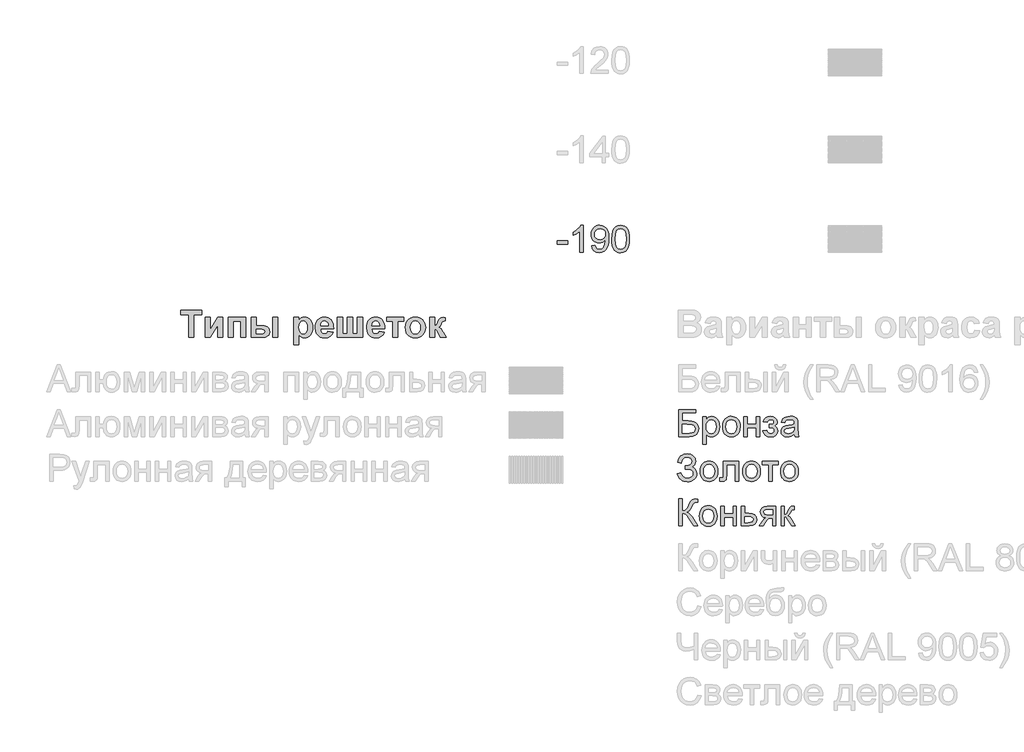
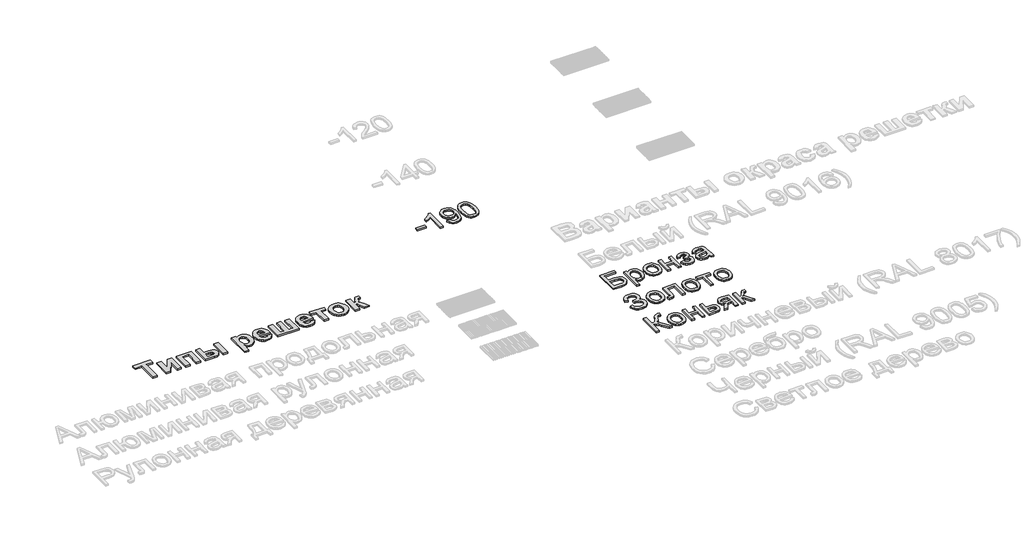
# One storey, part 3 of 10: 5 proxies.
"""IFC4 building model written with IfcOpenShell, lengths in millimetres."""

from ifc_helpers import new_model, si_unit, origin, origin_with_axes, place, context, project, spatial, polyline, outline, extrude, element, save

model = new_model("IFC4")

# Units and contexts
model_context = context("Model", 3, world=origin())
ifc_project = project(units=[si_unit("LENGTHUNIT", "METRE", prefix="MILLI")], contexts=[model_context])

# Site, building, storey
site = spatial("IfcSite", under=ifc_project)
building = spatial("IfcBuilding", under=site)
storey = spatial("IfcBuildingStorey", under=building, Name="Уровень 1", Elevation=0.0)

# Proxies
placement = place(None, origin())
element("IfcBuildingElementProxy", 1, Name="300", ObjectType="300", at=placement, inside=storey, context=model_context, shape_type="SweptSolid", body=[
    extrude(outline(polyline([(7102.1636245, -18713.7438159), (7290.519206, -18713.7438159), (7290.519206, -18751.4149322), (7139.8347408, -18751.4149322), (7139.8347408, -18840.8838335), (7210.3945075, -18840.8838335), (7245.4720557, -18842.7968198), (7272.5665647, -18848.535779), (7293.3702915, -18859.5906329), (7309.5754934, -18877.4513038), (7320.0049479, -18900.4439285), (7323.4814328, -18926.8946439), (7321.0074264, -18949.1055194), (7313.5854071, -18969.8264728), (7301.2521632, -18987.9722522), (7284.0444829, -19002.4576057), (7257.501797, -19011.9489612), (7217.1635362, -19015.1127464), (7102.1636245, -19015.1127464), (7102.1636245, -18713.7438159)]), holes=[polyline([(7139.8347408, -18977.4416301), (7220.5480505, -18977.4416301), (7249.0772993, -18974.3330272), (7269.4763559, -18965.0072186), (7281.7268263, -18949.4642043), (7285.8103165, -18927.7039843), (7283.4742658, -18911.4987824), (7276.4661138, -18898.1998483), (7265.2916982, -18888.3406108), (7250.4568567, -18882.4544989), (7193.6926649, -18878.5549498), (7139.8347408, -18878.5549498), (7139.8347408, -18977.4416301)])]), origin_with_axes(), (0.0, 0.0, 1.0), 20.0),
    extrude(outline(polyline([(7370.5703282, -19099.8727581), (7370.5703282, -18793.7949381), (7408.2414445, -18793.7949381), (7408.2414445, -18830.7302904), (7420.5287031, -18812.5109346), (7434.2874897, -18799.497109), (7450.3271447, -18791.6888137), (7469.4570085, -18789.0860485), (7494.9328366, -18792.7280803), (7517.2080914, -18803.6541756), (7535.3446738, -18821.2021467), (7548.4044846, -18844.7098062), (7556.2955534, -18872.4665028), (7558.9259097, -18902.7615851), (7555.9552626, -18934.9788508), (7547.0433213, -18963.7932081), (7532.4751942, -18987.7423259), (7512.5359901, -19005.3638735), (7489.3134392, -19016.2071953), (7464.8952717, -19019.8216359), (7447.5772268, -19017.4028118), (7432.116986, -19010.1463394), (7418.8824312, -18999.192653), (7408.2414445, -18985.6821868), (7408.2414445, -19099.8727581), (7370.5703282, -19099.8727581)]), holes=[polyline([(7408.2414445, -18906.2196758), (7412.3157376, -18939.991243), (7424.5386169, -18963.6092671), (7442.5740317, -18977.5152065), (7464.0859313, -18982.1505196), (7485.9473189, -18977.3496596), (7504.4425862, -18962.9470795), (7517.0517416, -18938.4645327), (7521.2547934, -18903.4237726), (7517.1529092, -18869.8361465), (7504.8472564, -18845.8870286), (7486.8394327, -18831.5396308), (7465.6310357, -18826.7571648), (7444.3398653, -18831.8431334), (7425.6422628, -18847.1010392), (7412.5916491, -18872.0526355), (7408.2414445, -18906.2196758)])]), origin_with_axes(), (0.0, 0.0, 1.0), 20.0),
    extrude(outline(polyline([(7591.8881365, -18904.4538422), (7593.925283, -18875.7912363), (7600.0367227, -18851.0925588), (7610.2224554, -18830.3578099), (7624.4824812, -18813.5869894), (7638.8390761, -18802.8678278), (7654.685593, -18795.2112838), (7672.0220321, -18790.6173573), (7690.8483932, -18789.0860485), (7711.6314266, -18790.9507504), (7730.4232988, -18796.544856), (7747.2240097, -18805.8683653), (7762.0335592, -18818.9212784), (7774.120782, -18835.2621367), (7782.7545126, -18854.449482), (7787.934751, -18876.4833143), (7789.6614971, -18901.3636335), (7786.6080765, -18939.4210259), (7777.4478148, -18968.391733), (7762.4474265, -18990.0875737), (7741.8736259, -19006.3203667), (7717.4370644, -19016.4463186), (7690.8483932, -19019.8216359), (7669.7618571, -19017.9638318), (7650.7952409, -19012.3904196), (7633.9485448, -19003.1013992), (7619.2217687, -18990.0967707), (7607.2633046, -18973.5972632), (7598.7215445, -18953.823606), (7593.5964885, -18930.775799), (7591.8881365, -18904.4538422)]), holes=[polyline([(7629.5592528, -18904.3802658), (7633.9186544, -18938.4737297), (7646.9968593, -18962.7631385), (7666.6785461, -18977.3036743), (7690.8483932, -18982.1505196), (7714.9078757, -18977.2760832), (7734.5527742, -18962.6527739), (7747.6309791, -18938.0414684), (7751.9903808, -18903.2030434), (7747.603388, -18870.1028609), (7734.4424096, -18846.144546), (7714.7699199, -18831.6040101), (7690.8483932, -18826.7571648), (7666.6785461, -18831.585616), (7646.9968593, -18846.0709696), (7633.9186544, -18870.305196), (7629.5592528, -18904.3802658)])]), origin_with_axes(), (0.0, 0.0, 1.0), 20.0),
    extrude(outline(polyline([(7832.0415029, -18793.7949381), (7869.7126192, -18793.7949381), (7869.7126192, -18878.5549498), (7968.5992995, -18878.5549498), (7968.5992995, -18793.7949381), (8006.2704158, -18793.7949381), (8006.2704158, -19015.1127464), (7968.5992995, -19015.1127464), (7968.5992995, -18916.2260661), (7869.7126192, -18916.2260661), (7869.7126192, -19015.1127464), (7832.0415029, -19015.1127464), (7832.0415029, -18793.7949381)])), origin_with_axes(), (0.0, 0.0, 1.0), 20.0),
    extrude(outline(polyline([(8114.5748752, -18916.2260661), (8114.5748752, -18878.5549498), (8144.2997404, -18877.0834218), (8159.3093258, -18869.2475353), (8164.6068266, -18861.8990924), (8166.3726601, -18852.8767865), (8164.0090183, -18842.1622234), (8156.9180929, -18833.8572874), (8146.0931652, -18828.5321955), (8132.5275166, -18826.7571648), (8118.8147152, -18828.5229984), (8107.3275999, -18833.8204992), (8098.0661707, -18842.649667), (8091.0304275, -18855.0105021), (8048.6504217, -18850.3016125), (8059.8892166, -18823.5198033), (8076.9773353, -18804.3899395), (8099.9147777, -18792.9120213), (8128.7015438, -18789.0860485), (8160.1922426, -18793.7489528), (8184.0309959, -18807.7376657), (8199.0405813, -18828.2011017), (8204.0437764, -18852.2881753), (8202.2641473, -18864.6490104), (8196.9252598, -18875.6854702), (8188.0271141, -18885.3975549), (8175.56971, -18893.7852644), (8190.1102459, -18904.2515071), (8200.4753211, -18917.2561357), (8206.6833298, -18932.8359382), (8208.752666, -18951.0277028), (8203.5011505, -18978.7568082), (8187.7466041, -19000.7285604), (8162.5558844, -19015.048367), (8128.9958494, -19019.8216359), (8096.1715784, -19015.407052), (8071.0544352, -19002.1633002), (8053.6444198, -18980.0903804), (8043.9415321, -18949.1882928), (8086.321538, -18944.4794033), (8092.6675024, -18960.4086937), (8103.3176862, -18972.2912821), (8117.0396846, -18979.6857102), (8132.601093, -18982.1505196), (8147.7578312, -18979.7868778), (8160.1186662, -18972.6959523), (8168.3408288, -18961.9262069), (8171.0815497, -18948.5261053), (8169.3800954, -18937.9127097), (8164.2757328, -18928.7340539), (8149.7811822, -18918.1390525), (8121.9325151, -18916.0053369), (8114.5748752, -18916.2260661)])), origin_with_axes(), (0.0, 0.0, 1.0), 20.0),
    extrude(outline(polyline([(8397.1082475, -18986.8594092), (8379.1096209, -19002.2920588), (8360.5775654, -19012.3904196), (8341.0890167, -19017.9638318), (8320.2209105, -19019.8216359), (8288.7394088, -19015.3518697), (8265.5168578, -19001.942571), (8251.1970512, -18981.5803025), (8246.4237823, -18956.2516272), (8248.2264041, -18940.6350365), (8253.6342694, -18926.4531855), (8261.9759936, -18914.3130797), (8272.5801921, -18904.8217242), (8298.9573312, -18892.4608892), (8331.551676, -18886.7955065), (8370.0689209, -18880.8358181), (8396.8875183, -18873.8460602), (8397.1082475, -18865.4583507), (8394.5146794, -18848.6461436), (8386.7339752, -18837.6464719), (8369.3331569, -18829.4794916), (8345.0897334, -18826.7571648), (8322.6489317, -18828.5689837), (8306.9771587, -18834.0044402), (8296.2901867, -18844.0568157), (8288.8037881, -18859.7193916), (8251.1326718, -18855.0105021), (8257.6717743, -18834.4091103), (8267.4298442, -18818.2223026), (8281.3173895, -18805.8430734), (8300.2449182, -18796.6644176), (8323.3938927, -18790.9806408), (8349.9457757, -18789.0860485), (8375.4124068, -18790.7599116), (8395.5999313, -18795.7815009), (8410.8210489, -18803.3322788), (8421.3884592, -18812.593708), (8428.3966112, -18824.0440351), (8432.9399538, -18838.1615067), (8434.7793638, -18871.1237335), (8434.7793638, -18917.9918997), (8436.6923502, -18983.4381066), (8444.1971429, -19015.1127464), (8406.5260266, -19015.1127464), (8397.1082475, -18986.8594092)]), holes=[polyline([(8397.1082475, -18911.5171765), (8336.3341419, -18923.0686712), (8303.9237381, -18929.1755123), (8289.2452465, -18939.1083262), (8284.0948986, -18953.6028768), (8286.8999988, -18964.8048835), (8295.3152994, -18973.9835393), (8309.1568595, -18980.1087745), (8328.240738, -18982.1505196), (8348.4742478, -18979.8972424), (8366.3533127, -18973.1374107), (8380.8478633, -18963.1770057), (8390.92783, -18951.3220084), (8395.3975962, -18939.1083262), (8396.8875183, -18922.1857544), (8397.1082475, -18911.5171765)])]), origin_with_axes(), (0.0, 0.0, 1.0), 20.0),
])
element("IfcBuildingElementProxy", 2, Name="300", ObjectType="300", at=placement, inside=storey, context=model_context, shape_type="SweptSolid", body=[
    extrude(outline(polyline([(7088.0369559, -19430.3527347), (7125.7080722, -19420.9349556), (7133.6635203, -19441.3248152), (7148.8478497, -19461.7330689), (7170.7092372, -19477.0461569), (7198.69586, -19482.1505196), (7227.0503648, -19478.3153498), (7248.6910232, -19466.8098404), (7262.4038245, -19449.8780716), (7266.9747583, -19429.7641235), (7261.9807602, -19408.6936822), (7246.998766, -19392.424101), (7223.4083331, -19382.0222376), (7192.5890189, -19378.5549498), (7172.7969676, -19378.5549498), (7172.7969676, -19340.8838335), (7215.4344908, -19337.8304129), (7229.3312332, -19332.4041535), (7241.5173243, -19322.2322163), (7250.0153984, -19308.8321146), (7252.8480897, -19293.7213617), (7249.0772993, -19275.9802525), (7237.7649279, -19260.7223467), (7220.0146216, -19250.2101187), (7196.9300264, -19246.7060427), (7176.0619203, -19249.4007783), (7158.486358, -19257.4849852), (7145.0218769, -19270.0205641), (7136.4870146, -19286.0694162), (7130.4169617, -19312.6304962), (7092.7458454, -19303.2127172), (7104.4490914, -19262.0099337), (7113.8634216, -19245.8231259), (7125.6528899, -19232.5793741), (7139.8174963, -19222.2786782), (7156.3572409, -19214.9210383), (7175.2721236, -19210.5064544), (7196.5621445, -19209.0349264), (7217.0738649, -19210.5639359), (7235.3461038, -19215.1509646), (7251.378861, -19222.7960123), (7265.1721366, -19233.4990791), (7276.2614794, -19246.2484895), (7284.1824387, -19260.032568), (7288.9350142, -19274.8513146), (7290.519206, -19290.7047293), (7288.0543967, -19310.5289703), (7280.6599686, -19327.9895695), (7268.3359217, -19343.0865269), (7251.0822561, -19355.8198425), (7272.0331358, -19365.4675478), (7289.2684072, -19381.7555231), (7300.8015078, -19403.2858169), (7304.6458746, -19428.6604775), (7302.8018661, -19447.2914013), (7297.2698406, -19464.335834), (7288.0497981, -19479.7937756), (7275.1417386, -19493.6652261), (7259.1894556, -19505.1086554), (7240.8367426, -19513.2825335), (7220.0835995, -19518.1868603), (7196.9300264, -19519.8216359), (7158.7254812, -19514.2298296), (7142.368528, -19507.2400717), (7127.8417878, -19497.4544106), (7115.1452604, -19484.8728464), (7104.278946, -19469.495379), (7088.0369559, -19430.3527347)])), origin_with_axes(), (0.0, 0.0, 1.0), 20.0),
    extrude(outline(polyline([(7342.3169909, -19404.4538422), (7344.3541375, -19375.7912363), (7350.4655771, -19351.0925588), (7360.6513099, -19330.3578099), (7374.9113357, -19313.5869894), (7389.2679306, -19302.8678278), (7405.1144475, -19295.2112838), (7422.4508865, -19290.6173573), (7441.2772476, -19289.0860485), (7462.0602811, -19290.9507504), (7480.8521533, -19296.544856), (7497.6528641, -19305.8683653), (7512.4624137, -19318.9212784), (7524.5496365, -19335.2621367), (7533.1833671, -19354.449482), (7538.3636054, -19376.4833143), (7540.0903515, -19401.3636335), (7537.036931, -19439.4210259), (7527.8766693, -19468.391733), (7512.876281, -19490.0875737), (7492.3024804, -19506.3203667), (7467.8659188, -19516.4463186), (7441.2772476, -19519.8216359), (7420.1907115, -19517.9638318), (7401.2240954, -19512.3904196), (7384.3773993, -19503.1013992), (7369.6506232, -19490.0967707), (7357.6921591, -19473.5972632), (7349.150399, -19453.823606), (7344.025343, -19430.775799), (7342.3169909, -19404.4538422)]), holes=[polyline([(7379.9881072, -19404.3802658), (7384.3475089, -19438.4737297), (7397.4257138, -19462.7631385), (7417.1074006, -19477.3036743), (7441.2772476, -19482.1505196), (7465.3367301, -19477.2760832), (7484.9816287, -19462.6527739), (7498.0598336, -19438.0414684), (7502.4192352, -19403.2030434), (7498.0322425, -19370.1028609), (7484.8712641, -19346.144546), (7465.1987744, -19331.6040101), (7441.2772476, -19326.7571648), (7417.1074006, -19331.585616), (7397.4257138, -19346.0709696), (7384.3475089, -19370.305196), (7379.9881072, -19404.3802658)])]), origin_with_axes(), (0.0, 0.0, 1.0), 20.0),
    extrude(outline(polyline([(7601.3059155, -19293.7949381), (7770.8259389, -19293.7949381), (7770.8259389, -19514.8920172), (7733.1548226, -19514.8920172), (7733.1548226, -19331.4660544), (7638.9770319, -19331.4660544), (7638.9770319, -19437.048187), (7636.4386461, -19485.7557632), (7631.6837713, -19496.783026), (7622.4959185, -19506.3203667), (7608.5531909, -19512.9146515), (7589.5336917, -19515.1127464), (7558.9259097, -19513.19976), (7558.9259097, -19477.4416301), (7575.7749051, -19477.4416301), (7592.8078415, -19475.1239735), (7599.6136584, -19467.7663336), (7601.3059155, -19434.9144714), (7601.3059155, -19293.7949381)])), origin_with_axes(), (0.0, 0.0, 1.0), 20.0),
    extrude(outline(polyline([(7817.9148343, -19404.4538422), (7819.9519809, -19375.7912363), (7826.0634205, -19351.0925588), (7836.2491532, -19330.3578099), (7850.5091791, -19313.5869894), (7864.8657739, -19302.8678278), (7880.7122909, -19295.2112838), (7898.0487299, -19290.6173573), (7916.875091, -19289.0860485), (7937.6581245, -19290.9507504), (7956.4499966, -19296.544856), (7973.2507075, -19305.8683653), (7988.0602571, -19318.9212784), (8000.1474799, -19335.2621367), (8008.7812105, -19354.449482), (8013.9614488, -19376.4833143), (8015.6881949, -19401.3636335), (8012.6347744, -19439.4210259), (8003.4745127, -19468.391733), (7988.4741243, -19490.0875737), (7967.9003237, -19506.3203667), (7943.4637622, -19516.4463186), (7916.875091, -19519.8216359), (7895.7885549, -19517.9638318), (7876.8219388, -19512.3904196), (7859.9752427, -19503.1013992), (7845.2484665, -19490.0967707), (7833.2900024, -19473.5972632), (7824.7482424, -19453.823606), (7819.6231863, -19430.775799), (7817.9148343, -19404.4538422)]), holes=[polyline([(7855.5859506, -19404.3802658), (7859.9453523, -19438.4737297), (7873.0235572, -19462.7631385), (7892.7052439, -19477.3036743), (7916.875091, -19482.1505196), (7940.9345735, -19477.2760832), (7960.579472, -19462.6527739), (7973.657677, -19438.0414684), (7978.0170786, -19403.2030434), (7973.6300858, -19370.1028609), (7960.4691074, -19346.144546), (7940.7966177, -19331.6040101), (7916.875091, -19326.7571648), (7892.7052439, -19331.585616), (7873.0235572, -19346.0709696), (7859.9453523, -19370.305196), (7855.5859506, -19404.3802658)])]), origin_with_axes(), (0.0, 0.0, 1.0), 20.0),
    extrude(outline(polyline([(8039.2326426, -19293.7949381), (8218.1704451, -19293.7949381), (8218.1704451, -19331.4660544), (8147.537102, -19331.4660544), (8147.537102, -19515.1127464), (8109.8659857, -19515.1127464), (8109.8659857, -19331.4660544), (8039.2326426, -19331.4660544), (8039.2326426, -19293.7949381)])), origin_with_axes(), (0.0, 0.0, 1.0), 20.0),
    extrude(outline(polyline([(8241.7148928, -19404.4538422), (8243.7520393, -19375.7912363), (8249.8634789, -19351.0925588), (8260.0492117, -19330.3578099), (8274.3092375, -19313.5869894), (8288.6658324, -19302.8678278), (8304.5123493, -19295.2112838), (8321.8487883, -19290.6173573), (8340.6751495, -19289.0860485), (8361.4581829, -19290.9507504), (8380.2500551, -19296.544856), (8397.050766, -19305.8683653), (8411.8603155, -19318.9212784), (8423.9475383, -19335.2621367), (8432.5812689, -19354.449482), (8437.7615072, -19376.4833143), (8439.4882534, -19401.3636335), (8436.4348328, -19439.4210259), (8427.2745711, -19468.391733), (8412.2741828, -19490.0875737), (8391.7003822, -19506.3203667), (8367.2638207, -19516.4463186), (8340.6751495, -19519.8216359), (8319.5886133, -19517.9638318), (8300.6219972, -19512.3904196), (8283.7753011, -19503.1013992), (8269.048525, -19490.0967707), (8257.0900609, -19473.5972632), (8248.5483008, -19453.823606), (8243.4232448, -19430.775799), (8241.7148928, -19404.4538422)]), holes=[polyline([(8279.3860091, -19404.3802658), (8283.7454107, -19438.4737297), (8296.8236156, -19462.7631385), (8316.5053024, -19477.3036743), (8340.6751495, -19482.1505196), (8364.7346319, -19477.2760832), (8384.3795305, -19462.6527739), (8397.4577354, -19438.0414684), (8401.8171371, -19403.2030434), (8397.4301443, -19370.1028609), (8384.2691659, -19346.144546), (8364.5966762, -19331.6040101), (8340.6751495, -19326.7571648), (8316.5053024, -19331.585616), (8296.8236156, -19346.0709696), (8283.7454107, -19370.305196), (8279.3860091, -19404.3802658)])]), origin_with_axes(), (0.0, 0.0, 1.0), 20.0),
])
element("IfcBuildingElementProxy", 3, Name="300", ObjectType="300", at=placement, inside=storey, context=model_context, shape_type="SweptSolid", body=[
    extrude(outline(polyline([(7102.1636245, -19713.7438159), (7139.8347408, -19713.7438159), (7139.8347408, -19845.592723), (7165.3381601, -19843.1003225), (7181.9572292, -19835.6231209), (7195.3941191, -19818.0291645), (7211.3510007, -19785.1864994), (7232.1363334, -19743.0640109), (7242.1611178, -19731.650472), (7255.6807811, -19722.2051018), (7271.7296331, -19715.8591374), (7289.3419836, -19713.7438159), (7314.0636537, -19714.1852743), (7314.0636537, -19751.8563906), (7305.7495206, -19751.6356614), (7297.4353875, -19751.4149322), (7280.181722, -19753.6774065), (7268.0048279, -19760.4648293), (7257.5201911, -19774.7202566), (7245.6376026, -19799.2395916), (7231.0602786, -19829.7737972), (7218.966158, -19846.4756398), (7192.9569009, -19862.0738364), (7207.5480205, -19868.2818451), (7222.0379726, -19879.1067728), (7250.7143741, -19914.6073853), (7314.0636537, -20015.1127464), (7270.3592727, -20015.1127464), (7216.7956542, -19930.2055819), (7196.111489, -19902.9731172), (7179.0877497, -19885.8758015), (7161.6777343, -19876.8534955), (7139.8347408, -19873.8460602), (7139.8347408, -20015.1127464), (7102.1636245, -20015.1127464), (7102.1636245, -19713.7438159)])), origin_with_axes(), (0.0, 0.0, 1.0), 20.0),
    extrude(outline(polyline([(7332.8992119, -19904.4538422), (7334.9363584, -19875.7912363), (7341.0477981, -19851.0925588), (7351.2335308, -19830.3578099), (7365.4935566, -19813.5869894), (7379.8501515, -19802.8678278), (7395.6966684, -19795.2112838), (7413.0331075, -19790.6173573), (7431.8594686, -19789.0860485), (7452.642502, -19790.9507504), (7471.4343742, -19796.544856), (7488.2350851, -19805.8683653), (7503.0446346, -19818.9212784), (7515.1318574, -19835.2621367), (7523.765588, -19854.449482), (7528.9458264, -19876.4833143), (7530.6725725, -19901.3636335), (7527.6191519, -19939.4210259), (7518.4588902, -19968.391733), (7503.4585019, -19990.0875737), (7482.8847013, -20006.3203667), (7458.4481398, -20016.4463186), (7431.8594686, -20019.8216359), (7410.7729325, -20017.9638318), (7391.8063163, -20012.3904196), (7374.9596202, -20003.1013992), (7360.2328441, -19990.0967707), (7348.27438, -19973.5972632), (7339.7326199, -19953.823606), (7334.6075639, -19930.775799), (7332.8992119, -19904.4538422)]), holes=[polyline([(7370.5703282, -19904.3802658), (7374.9297298, -19938.4737297), (7388.0079347, -19962.7631385), (7407.6896215, -19977.3036743), (7431.8594686, -19982.1505196), (7455.9189511, -19977.2760832), (7475.5638496, -19962.6527739), (7488.6420545, -19938.0414684), (7493.0014562, -19903.2030434), (7488.6144634, -19870.1028609), (7475.453485, -19846.144546), (7455.7809953, -19831.6040101), (7431.8594686, -19826.7571648), (7407.6896215, -19831.585616), (7388.0079347, -19846.0709696), (7374.9297298, -19870.305196), (7370.5703282, -19904.3802658)])]), origin_with_axes(), (0.0, 0.0, 1.0), 20.0),
    extrude(outline(polyline([(7573.0525783, -19793.7949381), (7610.7236946, -19793.7949381), (7610.7236946, -19878.5549498), (7709.6103749, -19878.5549498), (7709.6103749, -19793.7949381), (7747.2814912, -19793.7949381), (7747.2814912, -20015.1127464), (7709.6103749, -20015.1127464), (7709.6103749, -19916.2260661), (7610.7236946, -19916.2260661), (7610.7236946, -20015.1127464), (7573.0525783, -20015.1127464), (7573.0525783, -19793.7949381)])), origin_with_axes(), (0.0, 0.0, 1.0), 20.0),
    extrude(outline(polyline([(7803.7881657, -19793.7949381), (7841.459282, -19793.7949381), (7841.459282, -19873.8460602), (7884.8693574, -19873.8460602), (7922.5036855, -19878.5641468), (7937.6512267, -19884.4617551), (7950.3523526, -19892.7184066), (7960.395531, -19903.0489929), (7967.5692299, -19915.1684053), (7973.3081891, -19944.7737089), (7968.4245556, -19971.7302621), (7953.7736551, -19994.4745665), (7942.541758, -20003.5037702), (7928.3806004, -20009.9532014), (7891.2705041, -20015.1127464), (7803.7881657, -20015.1127464), (7803.7881657, -19793.7949381)]), holes=[polyline([(7841.459282, -19977.4416301), (7876.6288007, -19977.4416301), (7903.9164477, -19975.4642644), (7922.0622271, -19969.5321672), (7932.2433614, -19959.4062153), (7935.6370728, -19944.8472853), (7933.1262781, -19932.5416326), (7925.5938943, -19921.6707196), (7909.4530718, -19914.0555623), (7881.1169611, -19911.5171765), (7841.459282, -19911.5171765), (7841.459282, -19977.4416301)])]), origin_with_axes(), (0.0, 0.0, 1.0), 20.0),
    extrude(outline(polyline([(8189.9171078, -19793.7949381), (8189.9171078, -20015.1127464), (8152.2459915, -20015.1127464), (8152.2459915, -19930.3527347), (8131.7181762, -19930.3527347), (8103.7591446, -19935.1352006), (8092.593926, -19945.5646552), (8077.4923701, -19967.288087), (8047.4731993, -20015.1127464), (8003.9159711, -20015.1127464), (8041.7342402, -19954.6329464), (8058.4360828, -19932.9279087), (8073.8135502, -19923.2894004), (8048.0618105, -19915.3983316), (8029.9620163, -19900.4071403), (8019.2566503, -19880.4679361), (8015.6881949, -19857.7328288), (8020.5626313, -19831.944301), (8035.1859407, -19811.5268502), (8059.043088, -19798.2279161), (8091.6190387, -19793.7949381), (8189.9171078, -19793.7949381)]), holes=[polyline([(8152.2459915, -19831.4660544), (8102.5819222, -19831.4660544), (8076.9313501, -19833.6457552), (8062.3724201, -19840.1848577), (8055.6125884, -19849.648622), (8053.3593112, -19860.6023084), (8056.6794462, -19874.9589033), (8066.6398512, -19884.9193083), (8085.0431481, -19890.7410409), (8113.6919584, -19892.6816184), (8152.2459915, -19892.6816184), (8152.2459915, -19831.4660544)])]), origin_with_axes(), (0.0, 0.0, 1.0), 20.0),
    extrude(outline(polyline([(8246.4237823, -19793.7949381), (8284.0948986, -19793.7949381), (8284.0948986, -19887.9727288), (8299.4171837, -19886.2804717), (8309.3316035, -19881.2037001), (8318.105589, -19867.9599483), (8330.0065716, -19841.7667503), (8347.1866608, -19807.7376657), (8362.343399, -19796.6644176), (8389.8977604, -19793.7949381), (8397.1082475, -19793.7949381), (8397.1082475, -19831.6867836), (8386.9547044, -19831.4660544), (8368.5606047, -19835.4391799), (8355.6111585, -19860.2344264), (8340.4176321, -19887.0530239), (8319.1172645, -19900.1864111), (8331.0550353, -19905.4885103), (8342.8824414, -19914.8465086), (8366.2061599, -19945.7302021), (8406.5260266, -20015.1127464), (8363.7045624, -20015.1127464), (8324.1940361, -19947.2017301), (8304.3284083, -19918.4701462), (8295.039388, -19913.255419), (8284.0948986, -19911.5171765), (8284.0948986, -20015.1127464), (8246.4237823, -20015.1127464), (8246.4237823, -19793.7949381)])), origin_with_axes(), (0.0, 0.0, 1.0), 20.0),
])
element("IfcBuildingElementProxy", 4, Name="300", ObjectType="300", at=placement, inside=storey, context=model_context, shape_type="SweptSolid", body=[
    extrude(outline(polyline([(5740.7785013, -16863.6447251), (5740.7785013, -16825.9736087), (5858.5007398, -16825.9736087), (5858.5007398, -16863.6447251), (5740.7785013, -16863.6447251)])), origin_with_axes(), (0.0, 0.0, 1.0), 20.0),
    extrude(outline(polyline([(6032.7296527, -16953.1136263), (5995.0585364, -16953.1136263), (5995.0585364, -16718.2577606), (5959.3739828, -16743.6784064), (5919.7163038, -16762.6979056), (5919.7163038, -16727.0869284), (5949.3032132, -16710.9920912), (5974.9353912, -16691.8438333), (5995.1413098, -16671.4815649), (6008.449441, -16651.7446958), (6032.7296527, -16651.7446958), (6032.7296527, -16953.1136263)])), origin_with_axes(), (0.0, 0.0, 1.0), 20.0),
    extrude(outline(polyline([(6126.9074434, -16877.7713937), (6164.5785598, -16873.0625041), (6171.0164947, -16894.4456451), (6181.5011315, -16909.0045751), (6195.7749529, -16917.3646934), (6213.5804415, -16920.1513995), (6229.5557172, -16918.3579748), (6244.0778589, -16912.9777006), (6256.1443884, -16904.5991882), (6264.752827, -16893.8110487), (6277.0768739, -16861.0695511), (6282.5215274, -16817.3651701), (6282.3007982, -16810.0075302), (6269.2501844, -16825.9368205), (6252.1712628, -16838.555173), (6232.296438, -16846.7773356), (6210.8581147, -16849.5180564), (6192.9629549, -16847.8441934), (6176.5071334, -16842.8226041), (6161.4906503, -16834.4532887), (6147.9135054, -16822.7362472), (6136.6632141, -16808.2830833), (6128.6272918, -16791.7054009), (6123.8057384, -16773.0032), (6122.1985539, -16752.1764805), (6123.8839133, -16730.6553838), (6128.9399915, -16711.341579), (6137.3667884, -16694.2350663), (6149.1643042, -16679.3358455), (6163.5002057, -16667.2647175), (6179.5421599, -16658.6424832), (6197.2901669, -16653.4691427), (6216.7442267, -16651.7446958), (6244.841214, -16655.6810332), (6270.4182098, -16667.4900452), (6291.8105478, -16686.5831208), (6307.3535621, -16712.3716486), (6316.8173264, -16748.019414), (6319.9719145, -16796.6902019), (6316.8265235, -16848.2948488), (6307.3903503, -16888.1824541), (6291.7461684, -16918.1556397), (6269.9767514, -16940.0170272), (6243.0201982, -16953.3711437), (6211.8146079, -16957.8225158), (6179.6065393, -16952.5710003), (6153.9099819, -16936.8164539), (6135.9389464, -16911.5521579), (6126.9074434, -16877.7713937)]), holes=[polyline([(6282.3007982, -16751.2935637), (6278.2357022, -16725.7625533), (6266.040414, -16706.1176547), (6247.1128854, -16693.5912728), (6222.8510678, -16689.4158121), (6197.6879393, -16693.9131695), (6177.528006, -16707.4052417), (6164.2842542, -16728.0526187), (6159.8696702, -16754.0158905), (6164.0451309, -16777.2936237), (6176.5715128, -16795.7704969), (6196.2348054, -16807.8278293), (6221.8209982, -16811.8469401), (6245.8896777, -16807.8278293), (6265.2678618, -16795.7704969), (6278.0425641, -16776.613042), (6282.3007982, -16751.2935637)])]), origin_with_axes(), (0.0, 0.0, 1.0), 20.0),
    extrude(outline(polyline([(6352.9341413, -16804.8571822), (6355.7024533, -16756.6186556), (6364.0073893, -16718.147396), (6377.766176, -16688.8547921), (6396.8960397, -16668.1522328), (6421.5349363, -16655.8465801), (6451.8208216, -16651.7446958), (6475.0341755, -16654.172717), (6495.8195082, -16661.4567805), (6513.2019325, -16673.3117778), (6526.206561, -16689.4526003), (6536.0290103, -16709.7412924), (6543.8648968, -16734.0398982), (6548.9968506, -16764.8960005), (6550.7075019, -16804.8571822), (6547.966781, -16852.8197973), (6539.7446184, -16891.1990865), (6526.0686053, -16920.5192815), (6506.9663327, -16941.3046142), (6482.2722537, -16953.6930404), (6451.8208216, -16957.8225158), (6431.0722771, -16956.0290911), (6412.6781773, -16950.6488169), (6396.6385223, -16941.6816933), (6382.9533121, -16929.1277202), (6369.8199249, -16906.4339996), (6360.438934, -16878.1576698), (6354.8103395, -16844.2987306), (6352.9341413, -16804.8571822)]), holes=[polyline([(6390.6052576, -16804.7836058), (6395.0198415, -16864.0401982), (6400.5380715, -16884.3081969), (6408.2635934, -16898.3359972), (6427.9820683, -16914.6975489), (6451.8208216, -16920.1513995), (6475.6595749, -16914.6791548), (6495.3780498, -16898.2624208), (6503.1035717, -16884.2116278), (6508.6218016, -16863.9482277), (6513.0363856, -16804.7836058), (6508.7689544, -16746.8605857), (6503.4346655, -16726.6592656), (6495.966661, -16712.2980722), (6476.2849743, -16695.1363772), (6451.3793632, -16689.4158121), (6427.7981273, -16694.4557955), (6408.8522045, -16709.5757455), (6400.8691653, -16725.2107303), (6395.1669943, -16746.2903686), (6390.6052576, -16804.7836058)])]), origin_with_axes(), (0.0, 0.0, 1.0), 20.0),
])
element("IfcBuildingElementProxy", 5, Name="300_", ObjectType="300_", at=placement, inside=storey, context=model_context, shape_type="SweptSolid", body=[
    extrude(outline(polyline([(1617.409828, -17906.4763576), (1617.409828, -17653.8406967), (1529.9590223, -17653.8406967), (1529.9590223, -17600.3985377), (1763.1611709, -17600.3985377), (1763.1611709, -17653.8406967), (1675.7103651, -17653.8406967), (1675.7103651, -17906.4763576), (1617.409828, -17906.4763576)])), origin_with_axes(), (0.0, 0.0, 1.0), 20.0),
    extrude(outline(polyline([(1802.0281956, -17682.9909653), (1860.3287328, -17682.9909653), (1860.3287328, -17820.4678829), (1942.9211604, -17682.9909653), (2001.2216975, -17682.9909653), (2001.2216975, -17906.4763576), (1942.9211604, -17906.4763576), (1942.9211604, -17768.9235278), (1860.3287328, -17906.4763576), (1802.0281956, -17906.4763576), (1802.0281956, -17682.9909653)])), origin_with_axes(), (0.0, 0.0, 1.0), 20.0),
    extrude(outline(polyline([(2059.5222346, -17682.9909653), (2258.7157365, -17682.9909653), (2258.7157365, -17906.4763576), (2200.4151994, -17906.4763576), (2200.4151994, -17726.7163681), (2117.8227718, -17726.7163681), (2117.8227718, -17906.4763576), (2059.5222346, -17906.4763576), (2059.5222346, -17682.9909653)])), origin_with_axes(), (0.0, 0.0, 1.0), 20.0),
    extrude(outline(polyline([(2559.9351784, -17682.9909653), (2618.2357156, -17682.9909653), (2618.2357156, -17906.4763576), (2559.9351784, -17906.4763576), (2559.9351784, -17682.9909653)])), origin_with_axes(), (0.0, 0.0, 1.0), 20.0),
    extrude(outline(polyline([(2317.0162737, -17682.9909653), (2375.3168108, -17682.9909653), (2375.3168108, -17775.3001491), (2432.4027534, -17775.3001491), (2462.046451, -17776.5432107), (2483.7193721, -17780.2723954), (2500.049975, -17788.1672598), (2513.6667183, -17801.9073604), (2522.8615784, -17820.0598551), (2525.9265318, -17841.191902), (2520.5272796, -17869.7064062), (2513.7782143, -17880.9247998), (2504.3295229, -17890.1172877), (2477.3332618, -17902.3865901), (2439.5384963, -17906.4763576), (2317.0162737, -17906.4763576), (2317.0162737, -17682.9909653)]), holes=[polyline([(2375.3168108, -17867.6093329), (2428.3034969, -17867.6093329), (2446.123876, -17866.0246666), (2458.2887992, -17861.2706677), (2465.2916958, -17852.9487974), (2467.6259946, -17840.6605169), (2464.6084864, -17827.8598293), (2455.5559616, -17819.8226296), (2438.6844845, -17815.5810378), (2412.2101195, -17814.1671738), (2375.3168108, -17814.1671738), (2375.3168108, -17867.6093329)])]), origin_with_axes(), (0.0, 0.0, 1.0), 20.0),
    extrude(outline(polyline([(2793.137327, -17682.9909653), (2851.4378641, -17682.9909653), (2851.4378641, -17715.1777202), (2863.4889192, -17700.204047), (2879.1458017, -17688.3807285), (2897.573478, -17680.6946225), (2917.9369143, -17678.1325872), (2935.7976217, -17680.0375079), (2952.2586986, -17685.75227), (2967.3201452, -17695.2768736), (2980.9819613, -17708.6113185), (2992.3237121, -17725.3428325), (3000.4249627, -17745.0586432), (3005.2857131, -17767.7587507), (3006.9059632, -17793.4431548), (3005.2335235, -17819.8558412), (3000.2162043, -17843.1466401), (2991.8540057, -17863.3155515), (2980.1469276, -17880.3625754), (2966.0581056, -17893.9128955), (2950.5506751, -17903.5916957), (2933.6246362, -17909.3989757), (2915.2799888, -17911.3347357), (2897.9909949, -17909.531822), (2882.4100245, -17904.1230808), (2867.3035051, -17894.3304124), (2851.4378641, -17879.3757173), (2851.4378641, -17989.0687853), (2793.137327, -17989.0687853), (2793.137327, -17682.9909653)]), holes=[polyline([(2851.4378641, -17790.8621414), (2855.0911367, -17824.9846563), (2866.0509545, -17848.8590299), (2882.2676892, -17862.9217571), (2901.6917126, -17867.6093329), (2920.1288779, -17863.310807), (2935.2069302, -17850.4152292), (2945.2558021, -17827.708005), (2948.605426, -17793.9745399), (2945.1609119, -17762.0914336), (2934.8273694, -17739.6214349), (2919.3887343, -17726.2988513), (2900.6289424, -17721.85799), (2881.2428751, -17726.2134501), (2865.4436572, -17739.2798302), (2854.9393124, -17760.8863281), (2851.4378641, -17790.8621414)])]), origin_with_axes(), (0.0, 0.0, 1.0), 20.0),
    extrude(outline(polyline([(3176.9491965, -17838.4590643), (3235.2497336, -17848.1758205), (3221.0541601, -17875.38084), (3200.4819654, -17895.2034022), (3173.7419078, -17907.3019024), (3141.0427459, -17911.3347357), (3114.6395485, -17908.9577363), (3091.9086018, -17901.826738), (3072.8499057, -17889.9417408), (3057.4634602, -17873.3027447), (3048.0977978, -17857.0812655), (3041.4080389, -17838.8576031), (3036.0562317, -17796.4037289), (3037.8306784, -17770.1950565), (3043.1540185, -17746.9849142), (3052.0262519, -17726.7733022), (3064.4473787, -17709.5602205), (3079.5823652, -17695.8106309), (3096.5961775, -17685.9894955), (3115.4888158, -17680.0968143), (3136.26028, -17678.1325872), (3159.3423204, -17680.1490039), (3179.8528365, -17686.1982539), (3197.7918283, -17696.2803374), (3213.1592957, -17710.3952542), (3225.4048757, -17728.6758507), (3233.978205, -17751.2549731), (3238.8792837, -17778.1326215), (3240.1081117, -17809.3087957), (3094.3567689, -17809.3087957), (3098.0954427, -17833.8663788), (3108.0968694, -17852.275077), (3122.8428061, -17863.7757689), (3140.8150094, -17867.6093329), (3153.0558449, -17865.8823313), (3163.209096, -17860.7013265), (3171.1988506, -17851.6867578), (3176.9491965, -17838.4590643)]), holes=[polyline([(3181.8075746, -17775.3001491), (3178.2586812, -17752.2513202), (3168.8265956, -17735.4842223), (3155.1244512, -17725.2645481), (3138.7653812, -17721.85799), (3121.4953653, -17725.4448395), (3107.4895722, -17736.2053878), (3098.3042011, -17753.1907331), (3095.3436269, -17775.3001491), (3181.8075746, -17775.3001491)])]), origin_with_axes(), (0.0, 0.0, 1.0), 20.0),
    extrude(outline(polyline([(3283.8335146, -17682.9909653), (3342.1340517, -17682.9909653), (3342.1340517, -17862.7509548), (3395.5762108, -17862.7509548), (3395.5762108, -17682.9909653), (3453.8767479, -17682.9909653), (3453.8767479, -17862.7509548), (3507.318907, -17862.7509548), (3507.318907, -17682.9909653), (3565.6194441, -17682.9909653), (3565.6194441, -17906.4763576), (3283.8335146, -17906.4763576), (3283.8335146, -17682.9909653)])), origin_with_axes(), (0.0, 0.0, 1.0), 20.0),
    extrude(outline(polyline([(3750.2378117, -17838.4590643), (3808.5383489, -17848.1758205), (3794.3427754, -17875.38084), (3773.7705806, -17895.2034022), (3747.0305231, -17907.3019024), (3714.3313611, -17911.3347357), (3687.9281637, -17908.9577363), (3665.197217, -17901.826738), (3646.1385209, -17889.9417408), (3630.7520754, -17873.3027447), (3621.386413, -17857.0812655), (3614.6966541, -17838.8576031), (3609.344847, -17796.4037289), (3611.1192937, -17770.1950565), (3616.4426337, -17746.9849142), (3625.3148671, -17726.7733022), (3637.735994, -17709.5602205), (3652.8709804, -17695.8106309), (3669.8847928, -17685.9894955), (3688.777431, -17680.0968143), (3709.5488952, -17678.1325872), (3732.6309356, -17680.1490039), (3753.1414518, -17686.1982539), (3771.0804435, -17696.2803374), (3786.447911, -17710.3952542), (3798.6934909, -17728.6758507), (3807.2668202, -17751.2549731), (3812.1678989, -17778.1326215), (3813.396727, -17809.3087957), (3667.6453841, -17809.3087957), (3671.3840579, -17833.8663788), (3681.3854847, -17852.275077), (3696.1314213, -17863.7757689), (3714.1036246, -17867.6093329), (3726.3444601, -17865.8823313), (3736.4977112, -17860.7013265), (3744.4874658, -17851.6867578), (3750.2378117, -17838.4590643)]), holes=[polyline([(3755.0961898, -17775.3001491), (3751.5472964, -17752.2513202), (3742.1152108, -17735.4842223), (3728.4130664, -17725.2645481), (3712.0539964, -17721.85799), (3694.7839805, -17725.4448395), (3680.7781874, -17736.2053878), (3671.5928163, -17753.1907331), (3668.6322422, -17775.3001491), (3755.0961898, -17775.3001491)])]), origin_with_axes(), (0.0, 0.0, 1.0), 20.0),
    extrude(outline(polyline([(3832.8302393, -17682.9909653), (4027.1653631, -17682.9909653), (4027.1653631, -17726.7163681), (3959.1480698, -17726.7163681), (3959.1480698, -17906.4763576), (3900.8475327, -17906.4763576), (3900.8475327, -17726.7163681), (3832.8302393, -17726.7163681), (3832.8302393, -17682.9909653)])), origin_with_axes(), (0.0, 0.0, 1.0), 20.0),
    extrude(outline(polyline([(4041.7404974, -17791.5453508), (4045.3368359, -17762.6323078), (4056.1258513, -17734.6491886), (4073.5002464, -17710.3857652), (4096.8527239, -17692.6318093), (4124.7314639, -17681.7573927), (4155.6846462, -17678.1325872), (4179.6752603, -17680.1869599), (4201.3932542, -17686.3500783), (4220.8386278, -17696.6219421), (4238.0113812, -17711.0025515), (4252.0432692, -17728.5240264), (4262.0660462, -17748.2184868), (4268.0797125, -17770.0859327), (4270.0842679, -17794.1263642), (4268.0583622, -17818.3589483), (4261.980645, -17840.4232914), (4251.8511165, -17860.3193935), (4237.6697765, -17878.0472546), (4220.4187387, -17892.6105276), (4201.0801165, -17903.0128655), (4179.65391, -17909.2542682), (4156.1401191, -17911.3347357), (4126.4110204, -17907.8712435), (4098.1052745, -17897.480767), (4073.8133841, -17880.3910424), (4056.1258513, -17856.8298065), (4045.3368359, -17827.1101967), (4041.7404974, -17791.5453508)]), holes=[polyline([(4100.0410346, -17794.7336615), (4104.0738679, -17825.9050912), (4116.1723681, -17848.8210738), (4134.1920165, -17862.9122681), (4155.9882948, -17867.6093329), (4177.7655951, -17862.9122681), (4195.7283094, -17848.8210738), (4207.7698754, -17825.791223), (4211.7837307, -17794.2781885), (4207.7698754, -17763.4483635), (4195.7283094, -17740.6462491), (4177.7655951, -17726.5550548), (4155.9882948, -17721.85799), (4134.1920165, -17726.5550548), (4116.1723681, -17740.6462491), (4104.0738679, -17763.5622317), (4100.0410346, -17794.7336615)])]), origin_with_axes(), (0.0, 0.0, 1.0), 20.0),
    extrude(outline(polyline([(4313.8096707, -17682.9909653), (4372.1102079, -17682.9909653), (4372.1102079, -17775.3001491), (4384.4174665, -17772.2162177), (4392.4926222, -17766.3045584), (4406.9538883, -17734.3075839), (4418.5684484, -17707.3397899), (4431.2457788, -17692.1763364), (4446.5041225, -17685.287308), (4465.8617227, -17682.9909653), (4488.7112822, -17683.9778233), (4488.9390186, -17721.85799), (4470.2266718, -17722.9966724), (4459.7887501, -17726.4127195), (4453.1464363, -17735.8258271), (4445.9727374, -17754.6520422), (4433.7319019, -17780.2913735), (4417.0502053, -17793.7468034), (4430.2968768, -17799.6157621), (4442.4807781, -17809.5555103), (4463.6602701, -17841.6473749), (4465.9376348, -17845.9743679), (4498.4280384, -17906.4763576), (4432.9158462, -17906.4763576), (4405.2838208, -17843.9247397), (4390.5568622, -17819.556937), (4382.8328002, -17815.5146146), (4372.1102079, -17814.1671738), (4372.1102079, -17906.4763576), (4313.8096707, -17906.4763576), (4313.8096707, -17682.9909653)])), origin_with_axes(), (0.0, 0.0, 1.0), 20.0),
])

save(model, "model.ifc")
